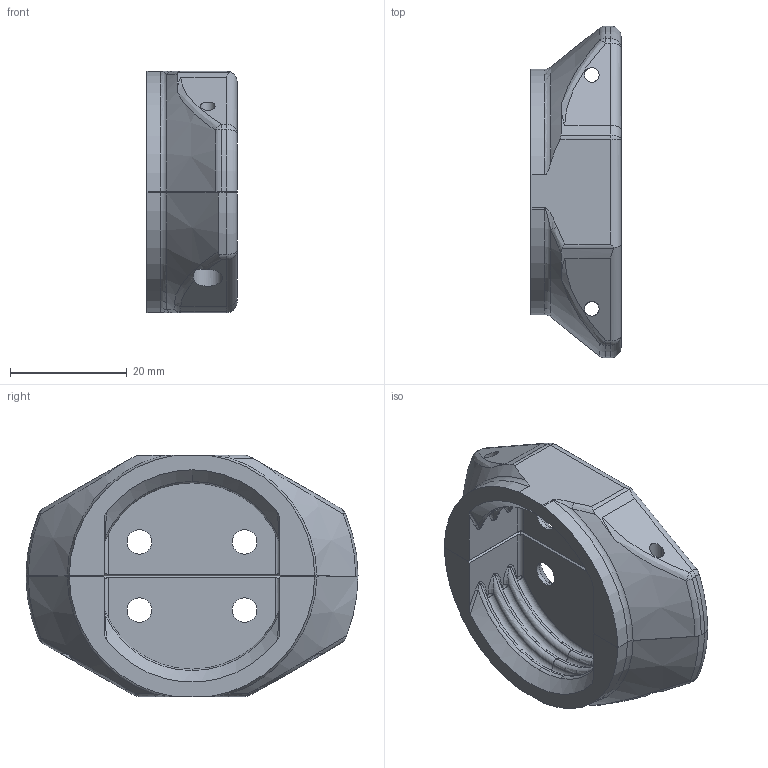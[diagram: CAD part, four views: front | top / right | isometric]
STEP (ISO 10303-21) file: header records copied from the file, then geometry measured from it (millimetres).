
FILE_DESCRIPTION (( 'STEP AP214' ), '1' );
FILE_NAME ('link_hand.STEP', '2026-04-02T07:58:39', ( 'Opium' ), ( 'YC.TEC' ), 'SwSTEP 2.0', 'SolidWorks 2023', '' );
FILE_SCHEMA (( 'AUTOMOTIVE_DESIGN' ));
Length unit declared in the file: millimetre
Products named in the file (4): zuanjie_hand.STEP; ZL.STEP; link_hand; ZR.STEP
Assembly tree (3 placements, depth 3):
  link_hand
    zuanjie_hand.STEP
      ZR.STEP
      ZL.STEP
Bounding box: 15.4 x 56.8 x 41.28 mm (x, y, z)
Volume: 14018.8 mm3; surface area: 8721.8 mm2
Topology: 2 solids, 2 shells, 209 faces, 516 edges, 303 vertices
Faces by surface type: cylinder 63, torus 45, bspline 40, plane 30, cone 19, sphere 12
Entity records: 11569 total; most frequent: CARTESIAN_POINT 5842, ORIENTED_EDGE 1008, DIRECTION 936, EDGE_CURVE 504, AXIS2_PLACEMENT_3D 403, VERTEX_POINT 303, EDGE_LOOP 229, CIRCLE 227
